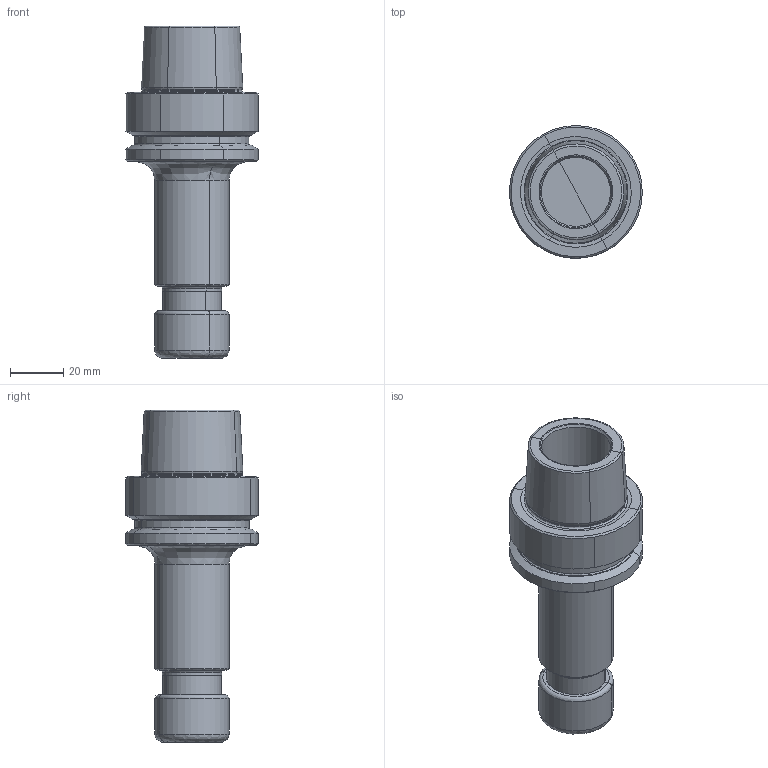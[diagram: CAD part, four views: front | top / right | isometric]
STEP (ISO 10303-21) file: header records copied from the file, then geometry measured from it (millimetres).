
FILE_DESCRIPTION(('CATIA V5 STEP','CAx-IF Rec.Pracs.--- Model Styling and Organization---1.2---2011-12-15'),'2;1');
FILE_NAME('\\nas01\drv1\utils\eitdev\rte\eit\transmagicconvert\db\out\635929456054800562\4561002 L.stp','2016-03-07T09:06:58+00:00',('none'),('none'),'CATIA Version 5 Release 21 SP 5 (IN-10)','CATIA V5 STEP AP214','none');
FILE_SCHEMA(('AUTOMOTIVE_DESIGN { 1 0 10303 214 1 1 1 1 }'));
Length unit declared in the file: millimetre
Products named in the file (1): HSK A 50 ER20X100 M
Bounding box: 49.91 x 49.99 x 125 mm (x, y, z)
Volume: 96218.9 mm3; surface area: 21872.6 mm2
Topology: 1 solids, 1 shells, 110 faces, 220 edges, 112 vertices
Faces by surface type: revolution 86, plane 24
Entity records: 3399 total; most frequent: CARTESIAN_POINT 1377, ORIENTED_EDGE 440, DIRECTION 250, EDGE_CURVE 220, B_SPLINE_CURVE_WITH_KNOTS 172, AXIS2_PLACEMENT_3D 128, CIRCLE 112, VERTEX_POINT 112
